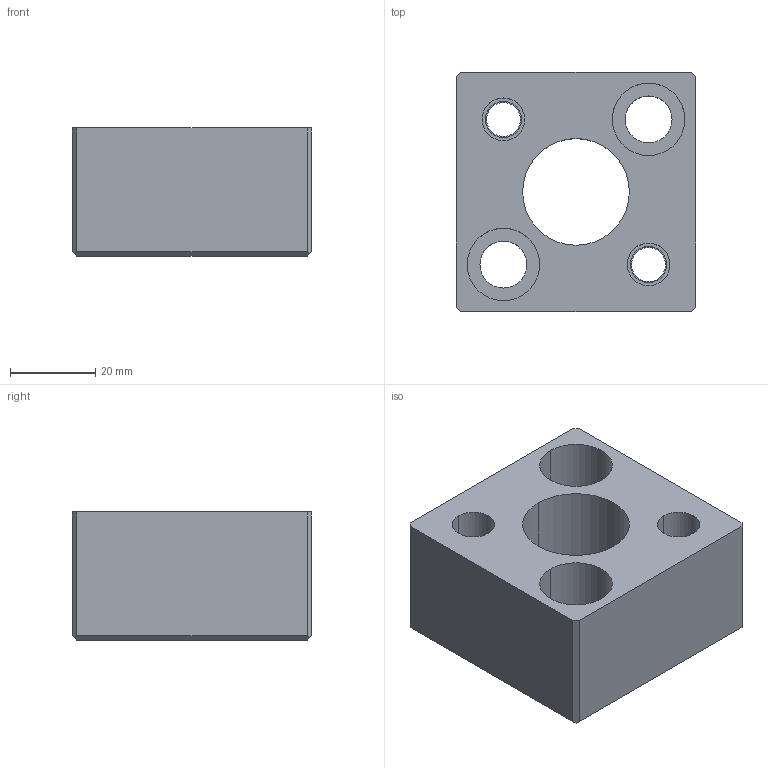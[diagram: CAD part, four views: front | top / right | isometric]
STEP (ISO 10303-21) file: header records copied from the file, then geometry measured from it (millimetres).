
FILE_DESCRIPTION(/* description */ (''),/* implementation_level */ '2;1');
FILE_NAME(/* name */ '3d_sa-an25_05035_r00.stp',/* time_stamp */ '2011-01-10T14:11:30+09:00',/* author */ ('MISUMI'),/* organization */ (''),/* preprocessor_version */ 'ST-DEVELOPER v11',/* originating_system */ 'UGS - NX 5.0',/* authorisation */ '');
FILE_SCHEMA (('CONFIG_CONTROL_DESIGN'));
Length unit declared in the file: millimetre
Products named in the file (1): 3d_sa-an25_05035_r00
Bounding box: 56 x 56 x 30 mm (x, y, z)
Volume: 64377.3 mm3; surface area: 17891.2 mm2
Topology: 1 solids, 1 shells, 47 faces, 112 edges, 74 vertices
Faces by surface type: cylinder 24, plane 21, cone 2
Entity records: 1486 total; most frequent: DIRECTION 258, CARTESIAN_POINT 234, ORIENTED_EDGE 224, EDGE_CURVE 112, AXIS2_PLACEMENT_3D 98, VERTEX_POINT 74, EDGE_LOOP 64, LINE 62
